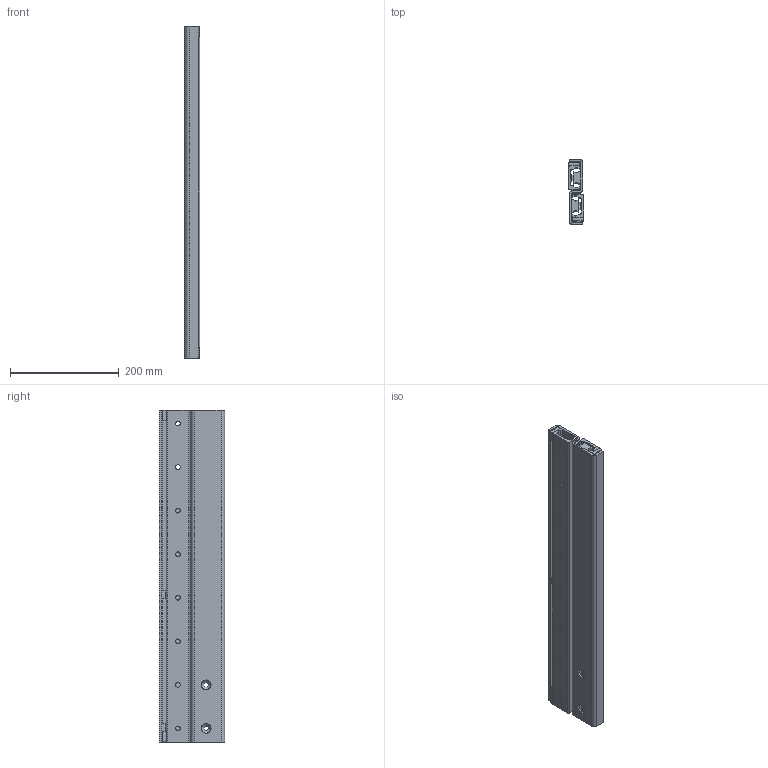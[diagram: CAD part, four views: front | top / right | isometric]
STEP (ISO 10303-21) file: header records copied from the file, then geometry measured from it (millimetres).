
FILE_DESCRIPTION(('STEP AP214'),'1');
FILE_NAME('rail_dss43-610_00.stp','2017-04-17T04:00:41',('TraceParts'),('TraceParts S.A.'),'Spatial InterOp 3D',' ',' ');
FILE_SCHEMA(('automotive_design'));
Length unit declared in the file: millimetre
Products named in the file (3): rail_dss43-610_00_1; rail_dss43-610_00_2; rail_dss43-610_00_3
Bounding box: 28 x 120 x 610 mm (x, y, z)
Volume: 1086205.5 mm3; surface area: 439472.1 mm2
Topology: 3 solids, 3 shells, 262 faces, 706 edges, 460 vertices
Faces by surface type: plane 138, cylinder 92, cone 32
Entity records: 8351 total; most frequent: DIRECTION 1468, CARTESIAN_POINT 1431, ORIENTED_EDGE 1412, EDGE_CURVE 706, AXIS2_PLACEMENT_3D 497, LINE 474, VECTOR 474, VERTEX_POINT 460
